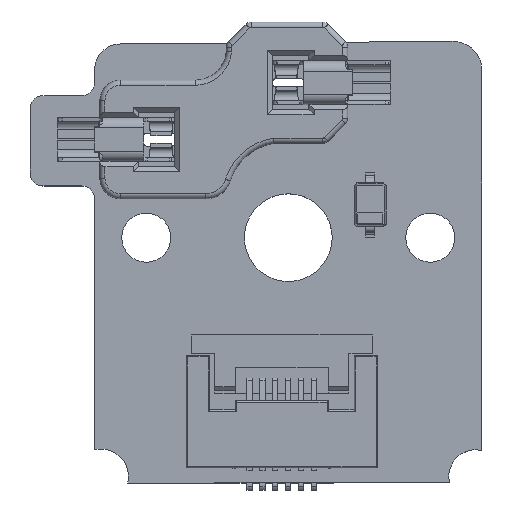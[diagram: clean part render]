
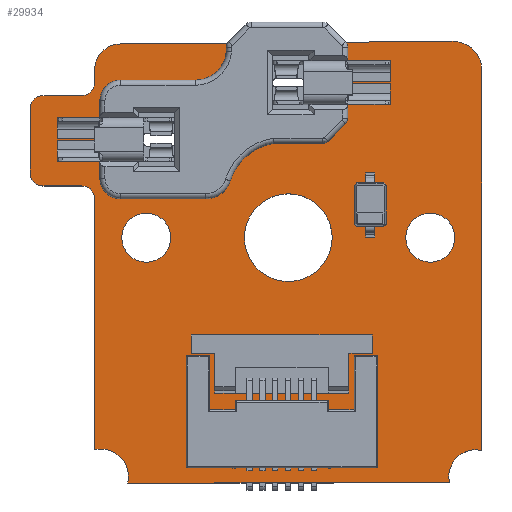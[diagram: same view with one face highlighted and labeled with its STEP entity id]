
A CAD part, top view. The second image highlights one B-rep face of the part: STEP entity #29934.
In plain terms, the highlighted planar face has unit normal (0, 0, 1).
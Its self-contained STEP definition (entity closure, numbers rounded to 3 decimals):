
#29662 = VERTEX_POINT('',#29663);
#29663 = CARTESIAN_POINT('',(154.88,-97.4,1.51));
#29669 = EDGE_CURVE('',#29662,#29670,#29672,.T.);
#29670 = VERTEX_POINT('',#29671);
#29671 = CARTESIAN_POINT('',(156.,-98.5,1.51));
#29672 = CIRCLE('',#29673,1.12);
#29673 = AXIS2_PLACEMENT_3D('',#29674,#29675,#29676);
#29674 = CARTESIAN_POINT('',(154.88,-98.52,1.51));
#29675 = DIRECTION('',(0.,0.,-1.));
#29676 = DIRECTION('',(0.,1.,0.));
#29704 = VERTEX_POINT('',#29705);
#29705 = CARTESIAN_POINT('',(142.,-97.5,1.51));
#29711 = EDGE_CURVE('',#29704,#29662,#29712,.T.);
#29712 = LINE('',#29713,#29714);
#29713 = CARTESIAN_POINT('',(142.,-97.5,1.51));
#29714 = VECTOR('',#29715,1.);
#29715 = DIRECTION('',(1.,0.008,0.));
#29733 = EDGE_CURVE('',#29670,#29734,#29736,.T.);
#29734 = VERTEX_POINT('',#29735);
#29735 = CARTESIAN_POINT('',(156.,-113.25,1.51));
#29736 = LINE('',#29737,#29738);
#29737 = CARTESIAN_POINT('',(156.,-98.5,1.51));
#29738 = VECTOR('',#29739,1.);
#29739 = DIRECTION('',(0.,-1.,0.));
#29934 = ADVANCED_FACE('',(#29935,#30049,#30060,#30071,#30082,#30093),
  #30104,.T.);
#29935 = FACE_BOUND('',#29936,.T.);
#29936 = EDGE_LOOP('',(#29937,#29938,#29939,#29948,#29956,#29965,#29973,
    #29982,#29990,#29999,#30007,#30016,#30024,#30033,#30041,#30048));
#29937 = ORIENTED_EDGE('',*,*,#29669,.F.);
#29938 = ORIENTED_EDGE('',*,*,#29711,.F.);
#29939 = ORIENTED_EDGE('',*,*,#29940,.F.);
#29940 = EDGE_CURVE('',#29941,#29704,#29943,.T.);
#29941 = VERTEX_POINT('',#29942);
#29942 = CARTESIAN_POINT('',(141.,-98.5,1.51));
#29943 = CIRCLE('',#29944,1.);
#29944 = AXIS2_PLACEMENT_3D('',#29945,#29946,#29947);
#29945 = CARTESIAN_POINT('',(142.,-98.5,1.51));
#29946 = DIRECTION('',(0.,0.,-1.));
#29947 = DIRECTION('',(-1.,0.,-0.));
#29948 = ORIENTED_EDGE('',*,*,#29949,.F.);
#29949 = EDGE_CURVE('',#29950,#29941,#29952,.T.);
#29950 = VERTEX_POINT('',#29951);
#29951 = CARTESIAN_POINT('',(141.,-99.,1.51));
#29952 = LINE('',#29953,#29954);
#29953 = CARTESIAN_POINT('',(141.,-99.,1.51));
#29954 = VECTOR('',#29955,1.);
#29955 = DIRECTION('',(0.,1.,0.));
#29956 = ORIENTED_EDGE('',*,*,#29957,.F.);
#29957 = EDGE_CURVE('',#29958,#29950,#29960,.T.);
#29958 = VERTEX_POINT('',#29959);
#29959 = CARTESIAN_POINT('',(140.5,-99.5,1.51));
#29960 = CIRCLE('',#29961,0.5);
#29961 = AXIS2_PLACEMENT_3D('',#29962,#29963,#29964);
#29962 = CARTESIAN_POINT('',(140.5,-99.,1.51));
#29963 = DIRECTION('',(0.,0.,1.));
#29964 = DIRECTION('',(0.,-1.,0.));
#29965 = ORIENTED_EDGE('',*,*,#29966,.F.);
#29966 = EDGE_CURVE('',#29967,#29958,#29969,.T.);
#29967 = VERTEX_POINT('',#29968);
#29968 = CARTESIAN_POINT('',(139.,-99.5,1.51));
#29969 = LINE('',#29970,#29971);
#29970 = CARTESIAN_POINT('',(139.,-99.5,1.51));
#29971 = VECTOR('',#29972,1.);
#29972 = DIRECTION('',(1.,0.,0.));
#29973 = ORIENTED_EDGE('',*,*,#29974,.F.);
#29974 = EDGE_CURVE('',#29975,#29967,#29977,.T.);
#29975 = VERTEX_POINT('',#29976);
#29976 = CARTESIAN_POINT('',(138.5,-100.,1.51));
#29977 = CIRCLE('',#29978,0.5);
#29978 = AXIS2_PLACEMENT_3D('',#29979,#29980,#29981);
#29979 = CARTESIAN_POINT('',(139.,-100.,1.51));
#29980 = DIRECTION('',(0.,0.,-1.));
#29981 = DIRECTION('',(-1.,0.,0.));
#29982 = ORIENTED_EDGE('',*,*,#29983,.F.);
#29983 = EDGE_CURVE('',#29984,#29975,#29986,.T.);
#29984 = VERTEX_POINT('',#29985);
#29985 = CARTESIAN_POINT('',(138.5,-102.5,1.51));
#29986 = LINE('',#29987,#29988);
#29987 = CARTESIAN_POINT('',(138.5,-102.5,1.51));
#29988 = VECTOR('',#29989,1.);
#29989 = DIRECTION('',(0.,1.,0.));
#29990 = ORIENTED_EDGE('',*,*,#29991,.F.);
#29991 = EDGE_CURVE('',#29992,#29984,#29994,.T.);
#29992 = VERTEX_POINT('',#29993);
#29993 = CARTESIAN_POINT('',(139.,-103.,1.51));
#29994 = CIRCLE('',#29995,0.5);
#29995 = AXIS2_PLACEMENT_3D('',#29996,#29997,#29998);
#29996 = CARTESIAN_POINT('',(139.,-102.5,1.51));
#29997 = DIRECTION('',(0.,0.,-1.));
#29998 = DIRECTION('',(0.,-1.,-0.));
#29999 = ORIENTED_EDGE('',*,*,#30000,.F.);
#30000 = EDGE_CURVE('',#30001,#29992,#30003,.T.);
#30001 = VERTEX_POINT('',#30002);
#30002 = CARTESIAN_POINT('',(140.5,-103.,1.51));
#30003 = LINE('',#30004,#30005);
#30004 = CARTESIAN_POINT('',(140.5,-103.,1.51));
#30005 = VECTOR('',#30006,1.);
#30006 = DIRECTION('',(-1.,0.,0.));
#30007 = ORIENTED_EDGE('',*,*,#30008,.F.);
#30008 = EDGE_CURVE('',#30009,#30001,#30011,.T.);
#30009 = VERTEX_POINT('',#30010);
#30010 = CARTESIAN_POINT('',(141.,-103.5,1.51));
#30011 = CIRCLE('',#30012,0.5);
#30012 = AXIS2_PLACEMENT_3D('',#30013,#30014,#30015);
#30013 = CARTESIAN_POINT('',(140.5,-103.5,1.51));
#30014 = DIRECTION('',(0.,0.,1.));
#30015 = DIRECTION('',(1.,0.,-0.));
#30016 = ORIENTED_EDGE('',*,*,#30017,.F.);
#30017 = EDGE_CURVE('',#30018,#30009,#30020,.T.);
#30018 = VERTEX_POINT('',#30019);
#30019 = CARTESIAN_POINT('',(141.,-113.219,1.51));
#30020 = LINE('',#30021,#30022);
#30021 = CARTESIAN_POINT('',(141.,-113.219,1.51));
#30022 = VECTOR('',#30023,1.);
#30023 = DIRECTION('',(0.,1.,0.));
#30024 = ORIENTED_EDGE('',*,*,#30025,.F.);
#30025 = EDGE_CURVE('',#30026,#30018,#30028,.T.);
#30026 = VERTEX_POINT('',#30027);
#30027 = CARTESIAN_POINT('',(142.279,-114.507,1.51));
#30028 = CIRCLE('',#30029,1.061);
#30029 = AXIS2_PLACEMENT_3D('',#30030,#30031,#30032);
#30030 = CARTESIAN_POINT('',(141.25,-114.25,1.51));
#30031 = DIRECTION('',(0.,0.,1.));
#30032 = DIRECTION('',(0.97,-0.243,0.));
#30033 = ORIENTED_EDGE('',*,*,#30034,.F.);
#30034 = EDGE_CURVE('',#30035,#30026,#30037,.T.);
#30035 = VERTEX_POINT('',#30036);
#30036 = CARTESIAN_POINT('',(154.75,-114.5,1.51));
#30037 = LINE('',#30038,#30039);
#30038 = CARTESIAN_POINT('',(154.75,-114.5,1.51));
#30039 = VECTOR('',#30040,1.);
#30040 = DIRECTION('',(-1.,-0.001,0.));
#30041 = ORIENTED_EDGE('',*,*,#30042,.F.);
#30042 = EDGE_CURVE('',#29734,#30035,#30043,.T.);
#30043 = CIRCLE('',#30044,1.031);
#30044 = AXIS2_PLACEMENT_3D('',#30045,#30046,#30047);
#30045 = CARTESIAN_POINT('',(155.75,-114.25,1.51));
#30046 = DIRECTION('',(0.,0.,1.));
#30047 = DIRECTION('',(0.243,0.97,-0.));
#30048 = ORIENTED_EDGE('',*,*,#29733,.F.);
#30049 = FACE_BOUND('',#30050,.T.);
#30050 = EDGE_LOOP('',(#30051));
#30051 = ORIENTED_EDGE('',*,*,#30052,.T.);
#30052 = EDGE_CURVE('',#30053,#30053,#30055,.T.);
#30053 = VERTEX_POINT('',#30054);
#30054 = CARTESIAN_POINT('',(143.001,-105.954,1.51));
#30055 = CIRCLE('',#30056,0.95);
#30056 = AXIS2_PLACEMENT_3D('',#30057,#30058,#30059);
#30057 = CARTESIAN_POINT('',(143.001,-105.004,1.51));
#30058 = DIRECTION('',(-0.,0.,-1.));
#30059 = DIRECTION('',(-0.,-1.,0.));
#30060 = FACE_BOUND('',#30061,.T.);
#30061 = EDGE_LOOP('',(#30062));
#30062 = ORIENTED_EDGE('',*,*,#30063,.T.);
#30063 = EDGE_CURVE('',#30064,#30064,#30066,.T.);
#30064 = VERTEX_POINT('',#30065);
#30065 = CARTESIAN_POINT('',(148.501,-106.704,1.51));
#30066 = CIRCLE('',#30067,1.7);
#30067 = AXIS2_PLACEMENT_3D('',#30068,#30069,#30070);
#30068 = CARTESIAN_POINT('',(148.501,-105.004,1.51));
#30069 = DIRECTION('',(-0.,0.,-1.));
#30070 = DIRECTION('',(-0.,-1.,0.));
#30071 = FACE_BOUND('',#30072,.T.);
#30072 = EDGE_LOOP('',(#30073));
#30073 = ORIENTED_EDGE('',*,*,#30074,.T.);
#30074 = EDGE_CURVE('',#30075,#30075,#30077,.T.);
#30075 = VERTEX_POINT('',#30076);
#30076 = CARTESIAN_POINT('',(154.001,-105.954,1.51));
#30077 = CIRCLE('',#30078,0.95);
#30078 = AXIS2_PLACEMENT_3D('',#30079,#30080,#30081);
#30079 = CARTESIAN_POINT('',(154.001,-105.004,1.51));
#30080 = DIRECTION('',(-0.,0.,-1.));
#30081 = DIRECTION('',(-0.,-1.,0.));
#30082 = FACE_BOUND('',#30083,.T.);
#30083 = EDGE_LOOP('',(#30084));
#30084 = ORIENTED_EDGE('',*,*,#30085,.T.);
#30085 = EDGE_CURVE('',#30086,#30086,#30088,.T.);
#30086 = VERTEX_POINT('',#30087);
#30087 = CARTESIAN_POINT('',(143.501,-102.704,1.51));
#30088 = CIRCLE('',#30089,1.5);
#30089 = AXIS2_PLACEMENT_3D('',#30090,#30091,#30092);
#30090 = CARTESIAN_POINT('',(143.501,-101.204,1.51));
#30091 = DIRECTION('',(-0.,0.,-1.));
#30092 = DIRECTION('',(-0.,-1.,0.));
#30093 = FACE_BOUND('',#30094,.T.);
#30094 = EDGE_LOOP('',(#30095));
#30095 = ORIENTED_EDGE('',*,*,#30096,.T.);
#30096 = EDGE_CURVE('',#30097,#30097,#30099,.T.);
#30097 = VERTEX_POINT('',#30098);
#30098 = CARTESIAN_POINT('',(148.501,-100.604,1.51));
#30099 = CIRCLE('',#30100,1.5);
#30100 = AXIS2_PLACEMENT_3D('',#30101,#30102,#30103);
#30101 = CARTESIAN_POINT('',(148.501,-99.104,1.51));
#30102 = DIRECTION('',(-0.,0.,-1.));
#30103 = DIRECTION('',(-0.,-1.,0.));
#30104 = PLANE('',#30105);
#30105 = AXIS2_PLACEMENT_3D('',#30106,#30107,#30108);
#30106 = CARTESIAN_POINT('',(0.,0.,1.51));
#30107 = DIRECTION('',(0.,0.,1.));
#30108 = DIRECTION('',(1.,0.,-0.));
